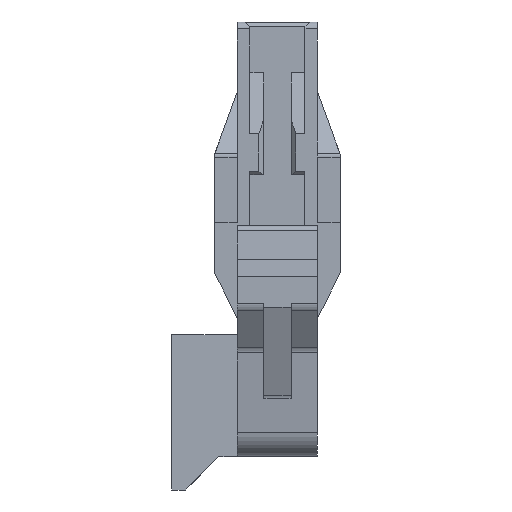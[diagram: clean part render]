
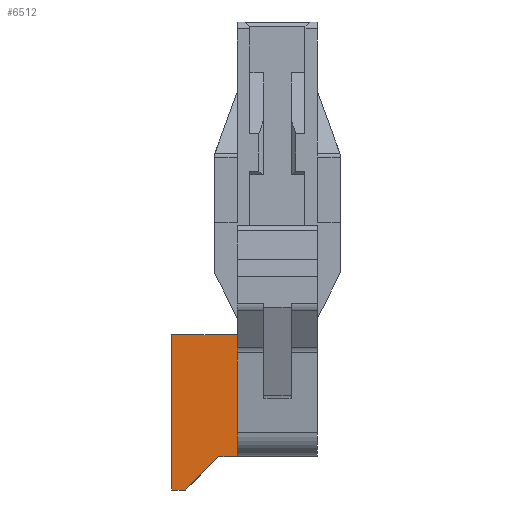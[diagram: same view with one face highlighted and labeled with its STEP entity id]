
A CAD part, left-side view. The second image highlights one B-rep face of the part: STEP entity #6512.
In plain terms, the highlighted planar face has unit normal (-1, 0, 0).
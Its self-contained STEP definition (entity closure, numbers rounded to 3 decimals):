
#1174=DIRECTION('',(0.,0.,-1.));
#1175=VECTOR('',#1174,5.3);
#1176=CARTESIAN_POINT('',(-2.97,2.99,-12.8));
#1177=LINE('',#1176,#1175);
#1748=DIRECTION('',(0.,-1.,0.));
#1749=VECTOR('',#1748,0.805);
#1750=CARTESIAN_POINT('',(-2.97,3.795,-18.1));
#1751=LINE('',#1750,#1749);
#1752=DIRECTION('',(0.,-0.707,0.707));
#1753=VECTOR('',#1752,2.058);
#1754=CARTESIAN_POINT('',(-2.97,5.25,-19.555));
#1755=LINE('',#1754,#1753);
#1756=DIRECTION('',(0.,-1.,0.));
#1757=VECTOR('',#1756,0.6);
#1758=CARTESIAN_POINT('',(-2.97,5.85,-19.555));
#1759=LINE('',#1758,#1757);
#1760=DIRECTION('',(0.,0.,-1.));
#1761=VECTOR('',#1760,6.755);
#1762=CARTESIAN_POINT('',(-2.97,5.85,-12.8));
#1763=LINE('',#1762,#1761);
#1764=DIRECTION('',(0.,1.,0.));
#1765=VECTOR('',#1764,2.86);
#1766=CARTESIAN_POINT('',(-2.97,2.99,-12.8));
#1767=LINE('',#1766,#1765);
#3167=CARTESIAN_POINT('',(-2.97,5.25,-19.555));
#3168=CARTESIAN_POINT('',(-2.97,3.795,-18.1));
#3169=VERTEX_POINT('',#3167);
#3170=VERTEX_POINT('',#3168);
#3195=CARTESIAN_POINT('',(-2.97,2.99,-18.1));
#3196=VERTEX_POINT('',#3195);
#3201=CARTESIAN_POINT('',(-2.97,2.99,-12.8));
#3202=VERTEX_POINT('',#3201);
#3215=CARTESIAN_POINT('',(-2.97,5.85,-12.8));
#3216=VERTEX_POINT('',#3215);
#3223=CARTESIAN_POINT('',(-2.97,5.85,-19.555));
#3224=VERTEX_POINT('',#3223);
#6496=CARTESIAN_POINT('',(-2.97,2.99,-12.8));
#6497=DIRECTION('',(-1.,0.,0.));
#6498=DIRECTION('',(0.,1.,0.));
#6499=AXIS2_PLACEMENT_3D('',#6496,#6497,#6498);
#6500=PLANE('',#6499);
#6501=ORIENTED_EDGE('',*,*,#6011,.F.);
#6503=ORIENTED_EDGE('',*,*,#6502,.F.);
#6505=ORIENTED_EDGE('',*,*,#6504,.F.);
#6506=ORIENTED_EDGE('',*,*,#6474,.F.);
#6508=ORIENTED_EDGE('',*,*,#6507,.F.);
#6509=ORIENTED_EDGE('',*,*,#5766,.T.);
#6510=EDGE_LOOP('',(#6501,#6503,#6505,#6506,#6508,#6509));
#6511=FACE_OUTER_BOUND('',#6510,.F.);
#6512=ADVANCED_FACE('',(#6511),#6500,.T.);
#5766=EDGE_CURVE('',#3202,#3196,#1177,.T.);
#6011=EDGE_CURVE('',#3170,#3196,#1751,.T.);
#6474=EDGE_CURVE('',#3216,#3224,#1763,.T.);
#6502=EDGE_CURVE('',#3169,#3170,#1755,.T.);
#6504=EDGE_CURVE('',#3224,#3169,#1759,.T.);
#6507=EDGE_CURVE('',#3202,#3216,#1767,.T.);
